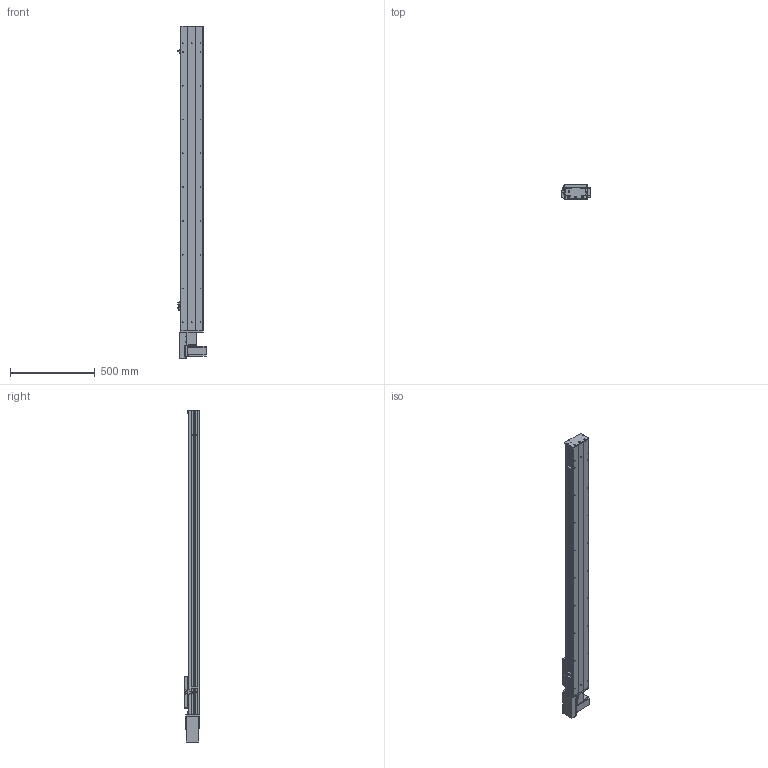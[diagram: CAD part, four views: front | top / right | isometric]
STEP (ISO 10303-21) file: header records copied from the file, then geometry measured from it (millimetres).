
FILE_DESCRIPTION (( 'STEP AP203' ), '1' );
FILE_NAME ('Y135CB-D90-S1500-BR-P400W.STEP', '2020-02-18T02:39:15', ( '微软用户' ), ( '微软中国' ), 'SwSTEP 2.0', 'SolidWorks 2017', '' );
FILE_SCHEMA (( 'CONFIG_CONTROL_DESIGN' ));
Length unit declared in the file: millimetre
Products named in the file (18): 135CB---遴掛极.-; C-詩湍揤踡え-陔; 35CB---喘謫眊楊擘啣; 135CB--詩湍-CE; Y10B-耜蚾蟀諉啣----; Y100-135俋离換覜ん--; Y俋欶BR----; Y135C-陔俋离換覜結え-; 0B-埴倛裔啣; 5C--俋欶; 0B-源倛裔啣; C-雄赽釱--; 0B-萇儂楊擘啣; Y10B--々湍喘謫眊--666; san松下电机400不带刹车----; Y135CB-耜裔; Y135CB-D90-S1500-BR-P400W; 5CB --掛极耜裔啣-
Assembly tree (21 placements, depth 2):
  Y135CB-D90-S1500-BR-P400W
    Y135CB-耜裔
    135CB---遴掛极.-
    35CB---喘謫眊楊擘啣
    Y10B-耜蚾蟀諉啣----
    Y俋欶BR----
    0B-埴倛裔啣
    0B-源倛裔啣
    0B-萇儂楊擘啣
    san松下电机400不带刹车----
    5CB --掛极耜裔啣-  x2
    C-詩湍揤踡え-陔  x2
    135CB--詩湍-CE
    Y100-135俋离換覜ん--  x3
    Y135C-陔俋离換覜結え-
    5C--俋欶
    C-雄赽釱--
    Y10B--々湍喘謫眊--666
Bounding box: 167.5 x 91 x 1964.5 mm (x, y, z)
Volume: 5685644.1 mm3; surface area: 2238638.4 mm2
Topology: 21 solids, 21 shells, 957 faces, 2581 edges, 1710 vertices
Faces by surface type: cylinder 483, plane 458, cone 16
Entity records: 29947 total; most frequent: DIRECTION 4973, CARTESIAN_POINT 4944, ORIENTED_EDGE 4638, EDGE_CURVE 2319, AXIS2_PLACEMENT_3D 1815, VERTEX_POINT 1538, LINE 1343, VECTOR 1343
